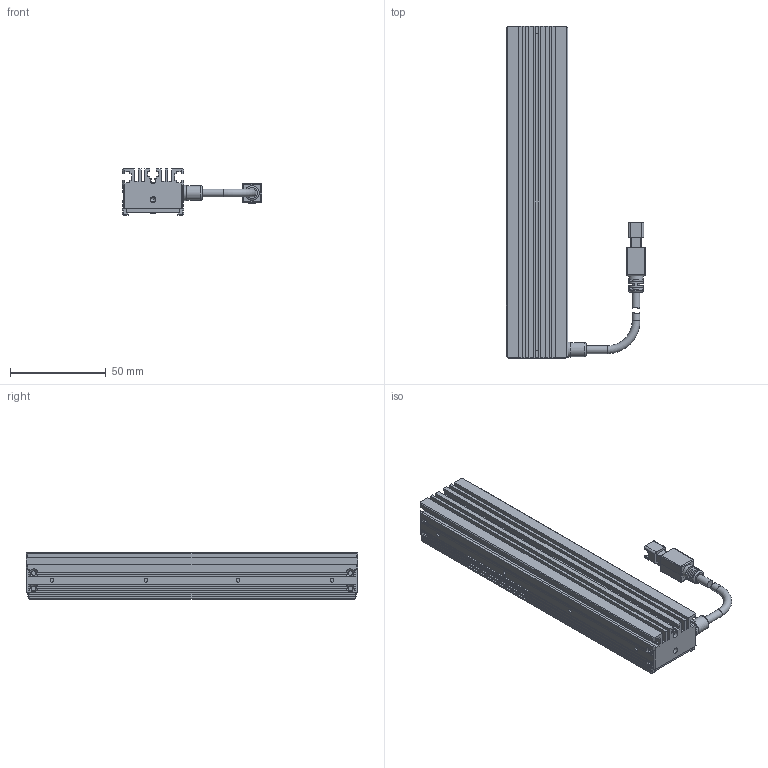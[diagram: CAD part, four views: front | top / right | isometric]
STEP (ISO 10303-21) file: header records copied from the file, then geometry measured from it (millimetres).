
FILE_DESCRIPTION (( 'STEP AP203' ), '1' );
FILE_NAME ('OPT-ILI17332-IR-V1.0U尨砩芞.STEP', '2025-01-18T07:53:24', ( '' ), ( '' ), 'SwSTEP 2.0', 'SolidWorks 2016', '' );
FILE_SCHEMA (( 'CONFIG_CONTROL_DESIGN' ));
Length unit declared in the file: millimetre
Products named in the file (1): OPT-ILI17332-IR-V1.0U尨砩芞
Bounding box: 72.6 x 173 x 24 mm (x, y, z)
Volume: 105841.4 mm3; surface area: 46245.9 mm2
Topology: 5 solids, 15 shells, 639 faces, 1651 edges, 1061 vertices
Faces by surface type: plane 439, cylinder 140, cone 30, bspline 20, torus 10
Full cylindrical faces by diameter (mm): 1.1 x2, 1.4 x4, 1.6 x7, 1.8 x2, 2 x15, 2.4 x7, 2.5 x2, 2.6 x2, 3 x2, 3.5 x1, 4.1 x3, 7.5 x2, 8 x1
Entity records: 19421 total; most frequent: CARTESIAN_POINT 4394, ORIENTED_EDGE 3074, DIRECTION 2976, EDGE_CURVE 1537, LINE 1070, VECTOR 1070, VERTEX_POINT 1029, AXIS2_PLACEMENT_3D 953
